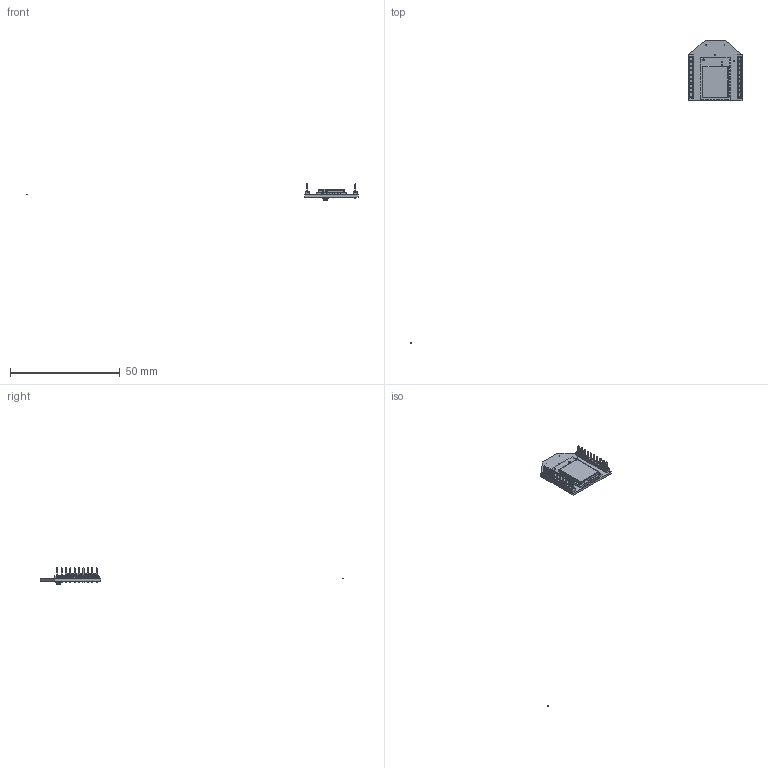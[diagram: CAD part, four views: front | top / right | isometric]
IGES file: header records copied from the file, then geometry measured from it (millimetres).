
Start section: SolidWorks IGES file using analytic representation for surfaces
Global section: file name: W:\working\55000000\55000000 SOLIDWORKS\55001998-02-PRT.IGS; native system: SolidWorks 2020; preprocessor: SolidWorks 2020; author: tmiller; date: 221130.151509; units: millimetre
Bounding box: 151.57 x 138.52 x 7.33 mm (x, y, z)
Surface area: 3245.6 mm2 (no closed solid volume)
Topology: 0 solids, 0 shells, 869 faces, 5631 edges, 5576 vertices
Faces by surface type: bspline 676, revolution 193
